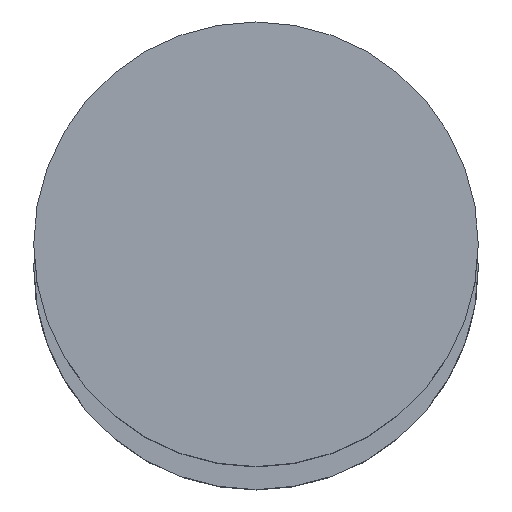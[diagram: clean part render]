
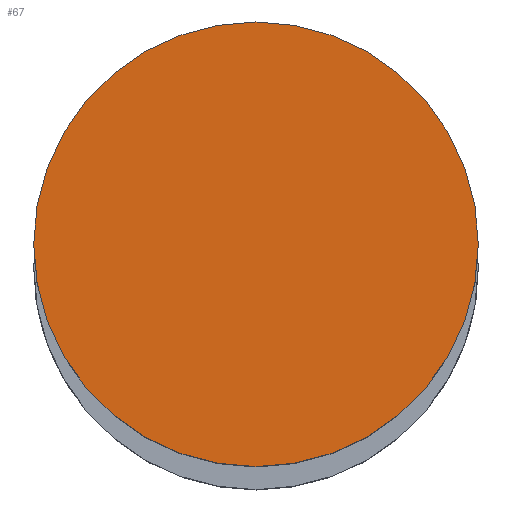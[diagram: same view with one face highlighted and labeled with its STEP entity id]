
A CAD part, top view. The second image highlights one B-rep face of the part: STEP entity #67.
In plain terms, the highlighted planar face has unit normal (0, 0, 1).
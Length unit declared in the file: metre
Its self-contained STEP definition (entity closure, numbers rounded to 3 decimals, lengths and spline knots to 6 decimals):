
#67=ADVANCED_FACE('0:57',(#136),#137,.F.);
#136=FACE_OUTER_BOUND('',#215,.T.);
#137=PLANE('',#216);
#215=EDGE_LOOP('',(#316,#317));
#216=AXIS2_PLACEMENT_3D('',#318,#319,#320);
#316=ORIENTED_EDGE('',*,*,#447,.F.);
#317=ORIENTED_EDGE('',*,*,#457,.F.);
#318=CARTESIAN_POINT('',(-0.000092,0.000095,3.654));
#319=DIRECTION('',(0.0,0.0,-1.0));
#320=DIRECTION('',(0.0,-1.0,0.0));
#447=EDGE_CURVE('0:63',#531,#527,#533,.T.);
#457=EDGE_CURVE('',#527,#531,#547,.T.);
#527=VERTEX_POINT('',#639);
#531=VERTEX_POINT('',#644);
#533=CIRCLE('',#647,0.0155);
#547=CIRCLE('',#663,0.0155);
#639=CARTESIAN_POINT('',(0.015408,0.000095,3.654));
#644=CARTESIAN_POINT('',(-0.015592,0.000095,3.654));
#647=AXIS2_PLACEMENT_3D('',#760,#761,#762);
#663=AXIS2_PLACEMENT_3D('',#777,#778,#779);
#760=CARTESIAN_POINT('',(-0.000092,0.000095,3.654));
#761=DIRECTION('',(0.0,0.0,-1.0));
#762=DIRECTION('',(1.0,0.0,0.0));
#777=CARTESIAN_POINT('',(-0.000092,0.000095,3.654));
#778=DIRECTION('',(0.0,0.0,-1.0));
#779=DIRECTION('',(1.0,0.0,0.0));
